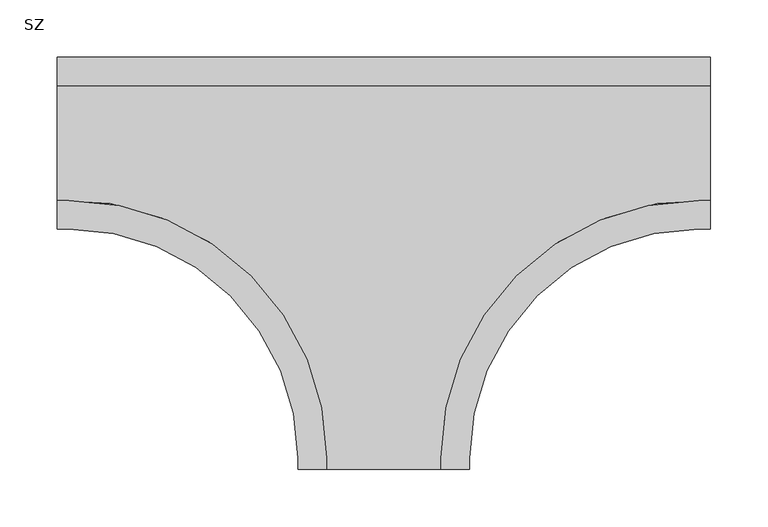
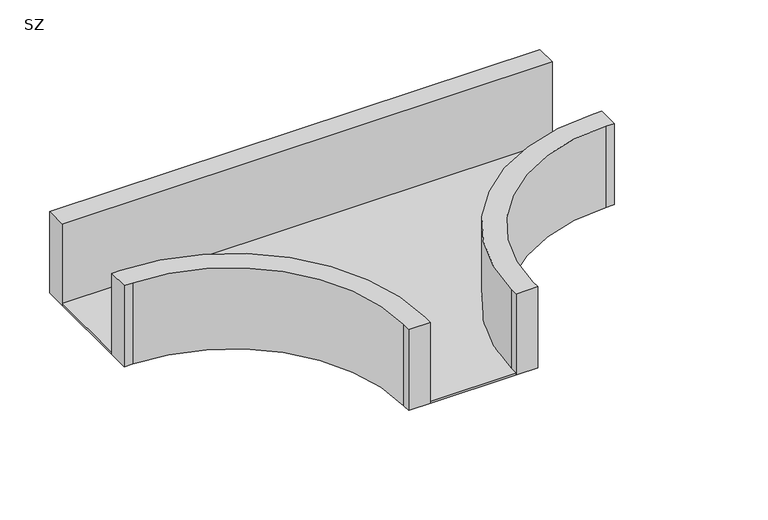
"""IFC4 building model written with IfcOpenShell, lengths in millimetres: cable carrier fitting geometry, IEK_Листовой_Разветвитель Т-обр плавный : SZ."""

from ifc_helpers import new_model, si_unit, point, frame, frame_2d, origin, place, context, project, spatial, polyline, circle_curve, trimmed, segment, composite_curve, outline, extrude, source, transform, mapped, element, save


def sz_7c2b690c(model_context):
    return source(origin(), model_context, "Body", "SweptSolid", [
        extrude(outline(composite_curve([segment(trimmed(circle_curve(frame_2d((-275.0, -275.0)), 200.0), [point((-75.0, -275.0))], [point((-275.0, -75.0))], True, "CARTESIAN"), True, "CONTINUOUS"), segment(polyline([(-275.0, -75.0), (-285.0, -75.0), (-285.0, -50.0), (-275.0, -50.0)]), True, "CONTINUOUS"), segment(trimmed(circle_curve(frame_2d((-275.0, -275.0)), 225.0), [point((-275.0, -50.0))], [point((-50.0, -275.0))], False, "CARTESIAN"), True, "CONTINUOUS"), segment(polyline([(-50.0, -275.0), (-50.0, -285.0), (-75.0, -285.0), (-75.0, -275.0)]), True, "CONTINUOUS")], self_intersect=False)), frame((0.0, 0.0, -50.0), z_axis=(0.0, 0.0, 1.0), x_axis=(1.0, 0.0, 0.0)), (0.0, 0.0, 1.0), 100.0),
        extrude(outline(composite_curve([segment(polyline([(75.0, -275.0), (75.0, -285.0), (50.0, -285.0), (50.0, -275.0)]), True, "CONTINUOUS"), segment(trimmed(circle_curve(frame_2d((275.0, -275.0)), 225.0), [point((50.0, -275.0))], [point((275.0, -50.0))], False, "CARTESIAN"), True, "CONTINUOUS"), segment(polyline([(275.0, -50.0), (285.0, -50.0), (285.0, -75.0), (275.0, -75.0)]), True, "CONTINUOUS"), segment(trimmed(circle_curve(frame_2d((275.0, -275.0)), 200.0), [point((275.0, -75.0))], [point((75.0, -275.0))], True, "CARTESIAN"), True, "CONTINUOUS")], self_intersect=False)), frame((0.0, 0.0, -50.0), z_axis=(0.0, 0.0, 1.0), x_axis=(1.0, 0.0, 0.0)), (0.0, 0.0, 1.0), 100.0),
        extrude(outline(polyline([(285.0, 75.0), (285.0, 50.0), (-285.0, 50.0), (-285.0, 75.0), (285.0, 75.0)])), frame((0.0, 0.0, -50.0), z_axis=(0.0, 0.0, 1.0), x_axis=(1.0, 0.0, 0.0)), (0.0, 0.0, 1.0), 100.0),
        extrude(outline(composite_curve([segment(polyline([(285.0, 50.0), (285.0, -50.1538826)]), True, "CONTINUOUS"), segment(trimmed(circle_curve(frame_2d((275.0, -275.0)), 225.0683819), [point((285.0, -50.1538826))], [point((50.1538826, -285.0))], True, "CARTESIAN"), True, "CONTINUOUS"), segment(polyline([(50.1538826, -285.0), (-50.1538826, -285.0)]), True, "CONTINUOUS"), segment(trimmed(circle_curve(frame_2d((-275.0, -275.0)), 225.0683819), [point((-50.1538826, -285.0))], [point((-285.0, -50.1538826))], True, "CARTESIAN"), True, "CONTINUOUS"), segment(polyline([(-285.0, -50.1538826), (-285.0, 50.0), (285.0, 50.0)]), True, "CONTINUOUS")], self_intersect=False)), frame((0.0, 0.0, -50.0), z_axis=(0.0, 0.0, 1.0), x_axis=(1.0, 0.0, 0.0)), (0.0, 0.0, 1.0), 2.5),
    ])


if __name__ == "__main__":
    model = new_model("IFC4")
    model_context = context("Model", 3, world=origin())
    ifc_project = project(units=[si_unit("LENGTHUNIT", "METRE", prefix="MILLI")], contexts=[model_context])
    site = spatial("IfcSite", under=ifc_project)
    building = spatial("IfcBuilding", under=site)
    placement = place(None, origin())
    sz_shape = sz_7c2b690c(model_context)
    element("IfcCableCarrierFitting", 1, ObjectType="IEK_Листовой_Разветвитель Т-обр плавный : SZ", at=placement, inside=building, context=model_context, shape_type="MappedRepresentation", body=[
        mapped(sz_shape, transform((0.0, 0.0, 0.0), x_axis=(1.0, 0.0, 0.0), y_axis=(0.0, 1.0, 0.0), z_axis=(0.0, 0.0, 1.0))),
    ])
    save(model, "model.ifc")
